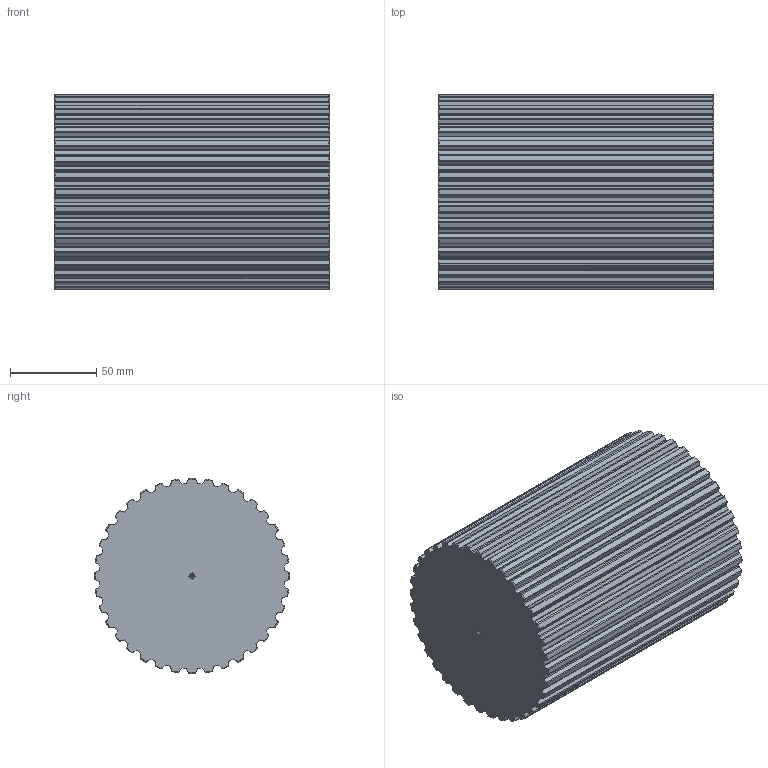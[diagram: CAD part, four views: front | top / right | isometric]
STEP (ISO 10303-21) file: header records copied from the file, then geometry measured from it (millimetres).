
FILE_DESCRIPTION(('STEP AP214'),'1');
FILE_NAME('bart_36.stp','2018-04-18T14:12:46',('TraceParts'),('TraceParts S.A.'),'Spatial InterOp 3D',' ',' ');
FILE_SCHEMA(('automotive_design'));
Length unit declared in the file: millimetre
Products named in the file (1): bart_36
Bounding box: 160 x 113.59 x 113.59 mm (x, y, z)
Volume: 1545614.1 mm3; surface area: 93179.4 mm2
Topology: 1 solids, 1 shells, 378 faces, 1120 edges, 742 vertices
Faces by surface type: cylinder 220, cone 84, plane 74
Entity records: 13591 total; most frequent: CARTESIAN_POINT 3821, ORIENTED_EDGE 2232, DIRECTION 1966, EDGE_CURVE 1116, AXIS2_PLACEMENT_3D 759, VERTEX_POINT 742, LINE 448, VECTOR 448
